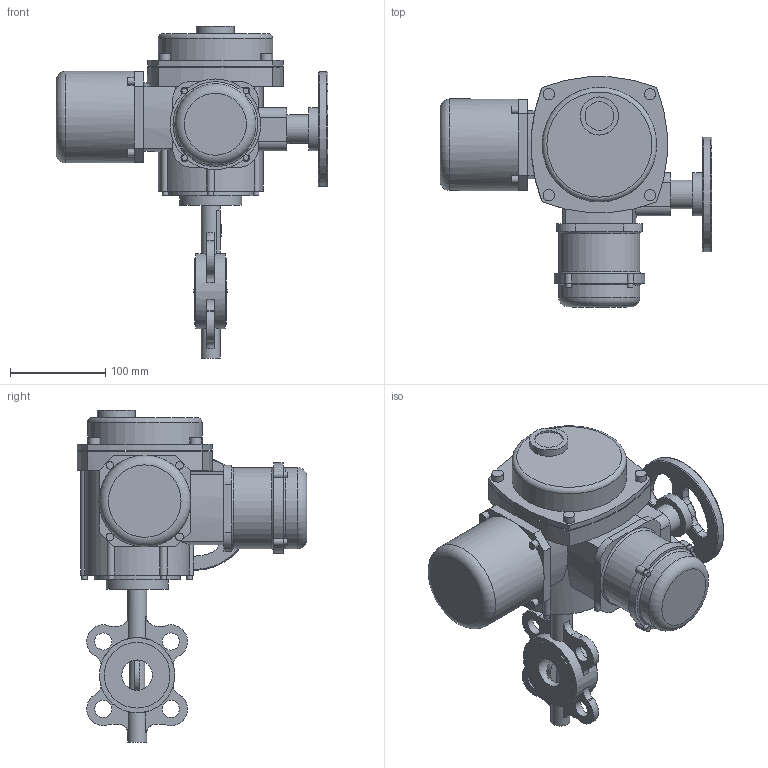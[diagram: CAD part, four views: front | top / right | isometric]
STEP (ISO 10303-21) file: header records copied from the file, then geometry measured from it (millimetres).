
FILE_DESCRIPTION(('STEP AP203'), '1');
FILE_NAME('青蜮铕 017W.YS_DN32_QT.Z 10', '', ('UNSPECIFIED'), ('UNSPECIFIED'), 'ASCON STEP Converter 1.6', 'ASCON Math Kernel', '');
FILE_SCHEMA(('CONFIG_CONTROL_DESIGN'));
Length unit declared in the file: millimetre
Bounding box: 285 x 240.97 x 348 mm (x, y, z)
Volume: 3766766.3 mm3; surface area: 307334.9 mm2
Topology: 1 solids, 1 shells, 338 faces, 813 edges, 512 vertices
Faces by surface type: cylinder 151, plane 135, torus 40, cone 12
Full cylindrical faces by diameter (mm): 4.917 x4, 6 x10, 6.647 x4, 8 x8, 12 x4, 12.386 x1, 12.6 x1, 16 x1, 18 x4, 20 x2, 30 x2, 32 x1, 35 x1, 40 x1, 45 x1, 55 x1, 65 x1, 68.9 x2, 78.9 x1, 85 x2, 90 x1, 96 x1, 120 x2
Entity records: 14560 total; most frequent: CARTESIAN_POINT 3980, DIRECTION 1776, ORIENTED_EDGE 1454, AXIS2_PLACEMENT_3D 756, EDGE_CURVE 727, VERTEX_POINT 503, EDGE_LOOP 477, CIRCLE 417
